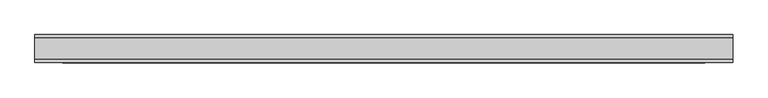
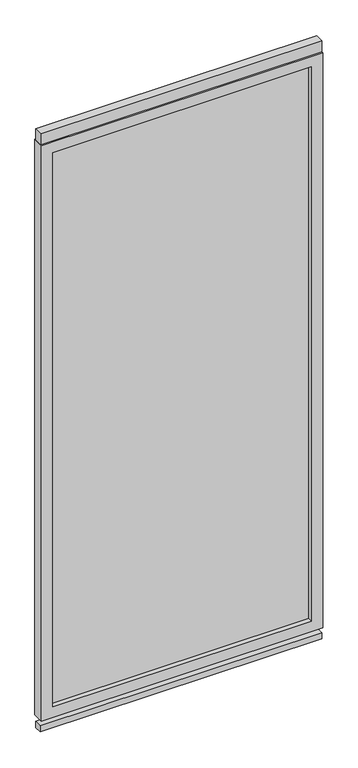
"""IFC4 building model written with IfcOpenShell, lengths in millimetres: proxy geometry, Renson_Camargue_Loggia_Canvas : Renson_Camargue_Loggia_Canvas."""

from ifc_helpers import new_model, si_unit, frame, origin, origin_with_axes, place, context, project, spatial, polyline, outline, extrude, source, transform, mapped, element, save


def generic_models_8e0265fe(model_context):
    return source(origin(), model_context, "Body", "SweptSolid", [
        extrude(outline(polyline([(500.0, 15.0), (500.0, -15.0), (-500.0, -15.0), (-500.0, 15.0), (500.0, 15.0)])), frame((0.0, 0.0, 2207.7138321), z_axis=(0.0, 0.0, 1.0), x_axis=(1.0, 0.0, 0.0)), (0.0, 0.0, 1.0), 42.2861679),
        extrude(outline(polyline([(500.0, 15.0), (500.0, -15.0), (-500.0, -15.0), (-500.0, 15.0), (500.0, 15.0)])), frame((0.0, 0.0, 2207.7138321), z_axis=(0.0, 0.0, 1.0), x_axis=(1.0, 0.0, 0.0)), (0.0, 0.0, 1.0), 42.2861679),
        extrude(outline(polyline([(500.0, -13.0), (-500.0, -13.0), (-500.0, 14.0), (500.0, 14.0), (500.0, -13.0)])), origin_with_axes(), (0.0, 0.0, 1.0), 23.0),
        extrude(outline(polyline([(460.0, -3.0), (-460.0, -3.0), (-460.0, 0.0), (460.0, 0.0), (460.0, -3.0)])), frame((0.0, 0.0, 85.0), z_axis=(0.0, 0.0, 1.0), x_axis=(1.0, 0.0, 0.0)), (0.0, 0.0, 1.0), 2082.7138321),
        extrude(outline(polyline([(500.0, -13.0), (-500.0, -13.0), (-500.0, 14.0), (500.0, 14.0), (500.0, -13.0)])), origin_with_axes(), (0.0, 0.0, 1.0), 23.0),
        extrude(outline(polyline([(2207.7138321, -500.0), (45.0, -500.0), (45.0, 500.0), (2207.7138321, 500.0), (2207.7138321, -500.0)]), holes=[polyline([(2167.7138321, 460.0), (85.0, 460.0), (85.0, -460.0), (2167.7138321, -460.0), (2167.7138321, 460.0)])]), frame((0.0, -20.0, 0.0), z_axis=(0.0, 1.0, 0.0), x_axis=(0.0, 0.0, 1.0)), (0.0, 0.0, 1.0), 40.0),
    ])


if __name__ == "__main__":
    model = new_model("IFC4")
    model_context = context("Model", 3, world=origin())
    ifc_project = project(units=[si_unit("LENGTHUNIT", "METRE", prefix="MILLI")], contexts=[model_context])
    site = spatial("IfcSite", under=ifc_project)
    building = spatial("IfcBuilding", under=site)
    placement = place(None, origin())
    generic_models_shape = generic_models_8e0265fe(model_context)
    element("IfcBuildingElementProxy", 1, Name="Renson_Camargue_Loggia_Canvas : Renson_Camargue_Loggia_Canvas", ObjectType="Renson_Camargue_Loggia_Canvas : Renson_Camargue_Loggia_Canvas", at=placement, inside=building, context=model_context, shape_type="MappedRepresentation", body=[
        mapped(generic_models_shape, transform((0.0, 0.0, 0.0), x_axis=(1.0, 0.0, 0.0), y_axis=(0.0, 1.0, 0.0), z_axis=(0.0, 0.0, 1.0))),
    ])
    save(model, "model.ifc")
